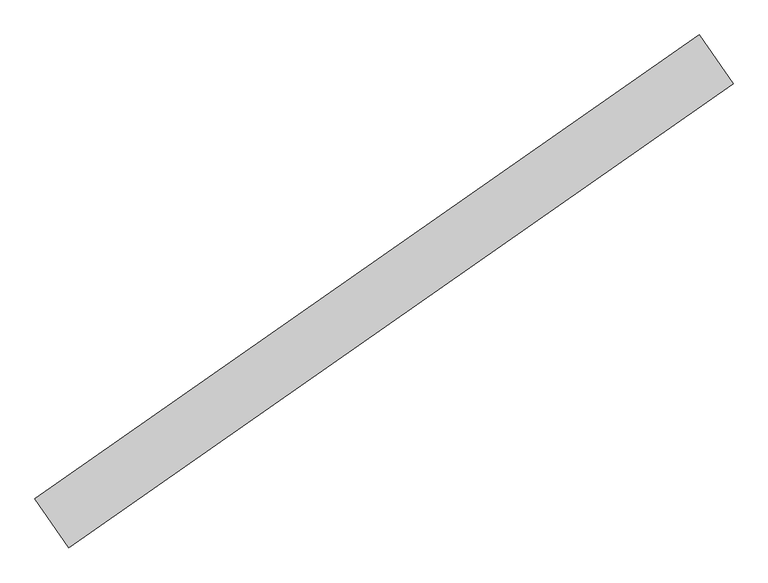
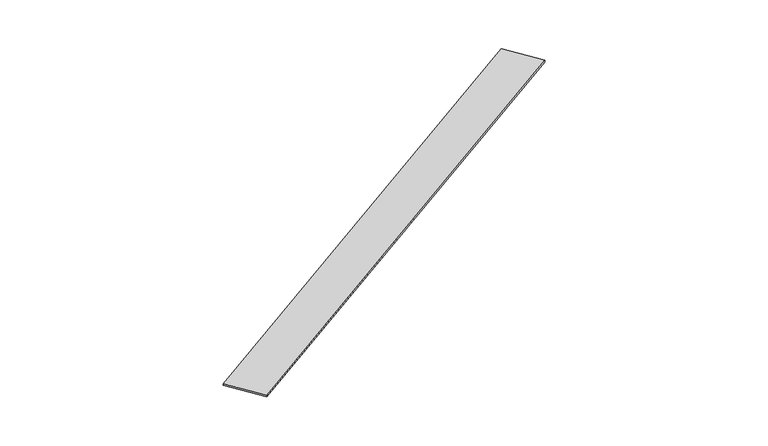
"""IFC4 building model written with IfcOpenShell, lengths in millimetres: furniture geometry, Soffitt : Soffitt."""

from ifc_helpers import new_model, si_unit, frame, origin, place, context, project, spatial, polyline, outline, extrude, source, transform, mapped, element, save


def furniture_5fe4add1(model_context):
    return source(origin(), model_context, "Body", "SweptSolid", [
        extrude(outline(polyline([(8376.2210574, 0.0), (8375.947954, -25.0000001), (53.8868255, -25.0000001), (54.1599288, 0.0), (8376.2210574, 0.0)])), frame((-9725.5344094, 12514.8476404, 2661.1755201), z_axis=(-0.5726972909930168, 0.8197669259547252, 0.0), x_axis=(0.819718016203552, 0.5726631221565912, -0.010923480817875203)), (0.0, 0.0, 1.0), 610.7595152),
    ])


if __name__ == "__main__":
    model = new_model("IFC4")
    model_context = context("Model", 3, world=origin())
    ifc_project = project(units=[si_unit("LENGTHUNIT", "METRE", prefix="MILLI")], contexts=[model_context])
    site = spatial("IfcSite", under=ifc_project)
    building = spatial("IfcBuilding", under=site)
    placement = place(None, origin())
    furniture_shape = furniture_5fe4add1(model_context)
    element("IfcFurniture", 1, ObjectType="Soffitt : Soffitt", at=placement, inside=building, context=model_context, shape_type="MappedRepresentation", body=[
        mapped(furniture_shape, transform((0.0, 0.0, 0.0), x_axis=(1.0, 0.0, 0.0), y_axis=(0.0, 1.0, 0.0), z_axis=(0.0, 0.0, 1.0))),
    ])
    save(model, "model.ifc")
